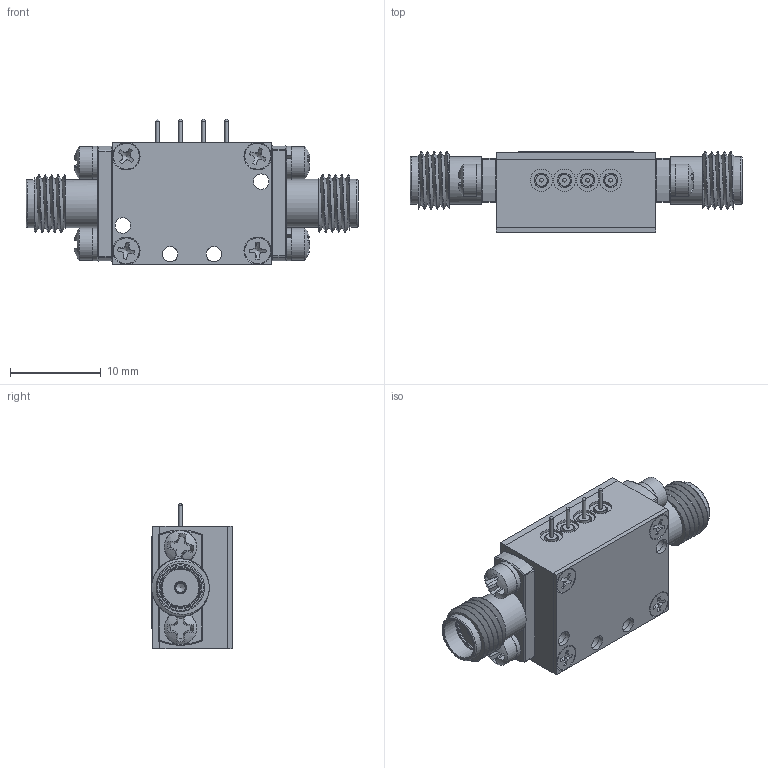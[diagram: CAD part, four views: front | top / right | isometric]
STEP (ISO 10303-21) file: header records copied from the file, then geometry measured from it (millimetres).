
FILE_DESCRIPTION (( 'STEP AP214' ), '1' );
FILE_NAME ('P1T-218-60-55-R-SFF.STEP', '2025-01-31T21:48:20', ( '' ), ( '' ), 'SwSTEP 2.0', 'SolidWorks 2024', '' );
FILE_SCHEMA (( 'AUTOMOTIVE_DESIGN' ));
Length unit declared in the file: inch
Products named in the file (1): P1T-218-60-55-R-SFF
Bounding box: 36.58 x 8.89 x 16 mm (x, y, z)
Volume: 1791.5 mm3; surface area: 4662.5 mm2
Topology: 33 solids, 33 shells, 912 faces, 3297 edges, 2596 vertices
Faces by surface type: plane 537, cylinder 214, cone 84, torus 48, sphere 24, bspline 5
Full cylindrical faces by diameter (mm): 0.381 x8, 0.508 x4, 0.762 x2, 0.889 x3, 1.016 x2, 1.191 x12, 1.27 x10, 1.524 x16, 1.6 x4, 1.702 x12, 1.727 x1, 1.778 x15, 2.184 x8, 2.438 x4, 2.565 x2, 2.591 x4, 2.794 x1, 3.048 x1, 3.302 x2, 3.556 x6, 4.191 x4, 4.597 x2, 5.283 x4
Entity records: 44713 total; most frequent: CARTESIAN_POINT 8724, ORIENTED_EDGE 5956, DIRECTION 5203, EDGE_CURVE 2978, VERTEX_POINT 2536, LINE 2017, VECTOR 2017, AXIS2_PLACEMENT_3D 1593
